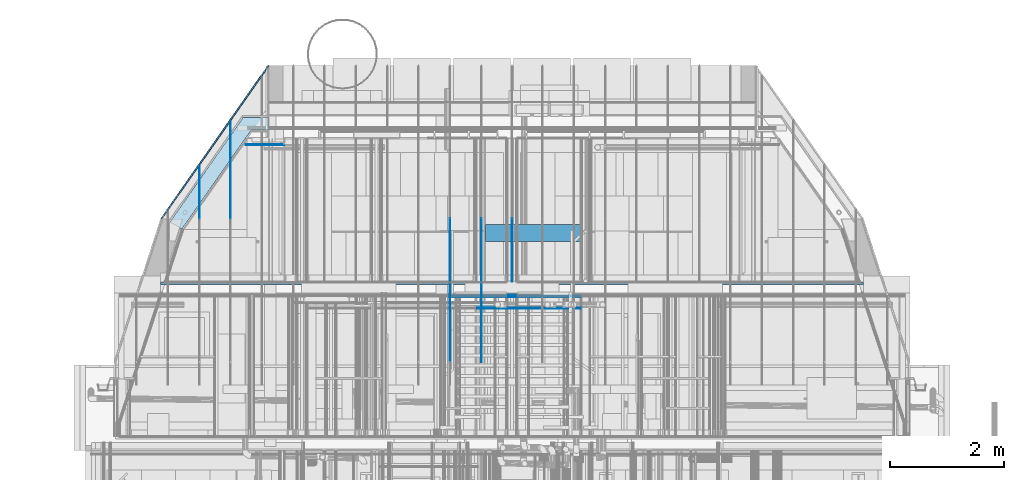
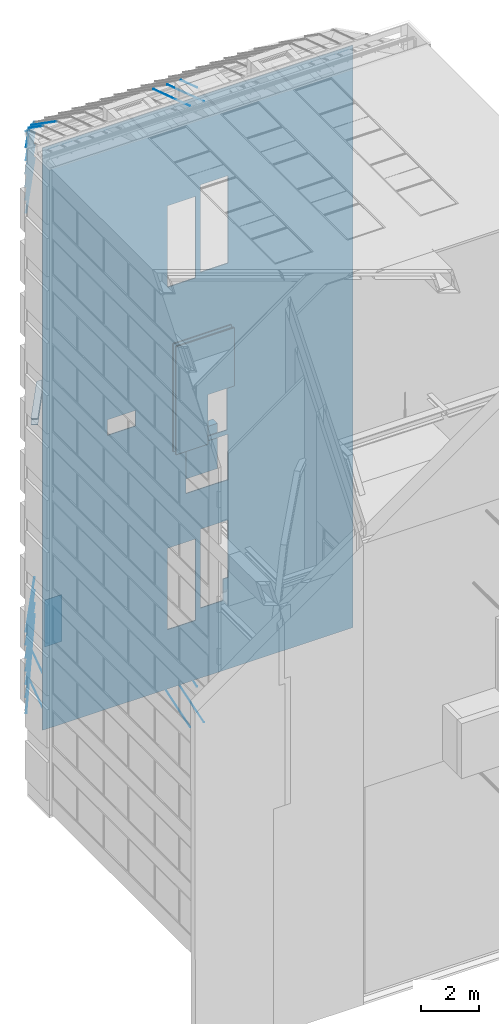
# One storey, part 270 of 583: 34 slabs.
"""IFC2X3 building model written with IfcOpenShell, lengths in metres."""

from ifc_helpers import new_model, entity, si_unit, converted_unit, derived_unit, money_unit, direction, frame, origin_with_axes, place, context, subcontext, project, spatial, faceted_brep, material, type_object, element, save


model = new_model("IFC2X3")

# Units and contexts
model_context = context("Model", 3, precision=1e-05, world=origin_with_axes(), true_north=direction((0.0, 1.0)))
body_context = subcontext(model_context, "Body", "Model", "MODEL_VIEW", scale=1.0)
ifc_project = project(units=[si_unit("LENGTHUNIT", "METRE"), si_unit("AREAUNIT", "SQUARE_METRE"), si_unit("VOLUMEUNIT", "CUBIC_METRE"), si_unit("ABSORBEDDOSEUNIT", "GRAY"), si_unit("AMOUNTOFSUBSTANCEUNIT", "MOLE"), si_unit("DOSEEQUIVALENTUNIT", "SIEVERT"), si_unit("ELECTRICCAPACITANCEUNIT", "FARAD"), si_unit("ELECTRICCHARGEUNIT", "COULOMB"), si_unit("ELECTRICCONDUCTANCEUNIT", "SIEMENS"), si_unit("ELECTRICCURRENTUNIT", "AMPERE"), si_unit("ELECTRICRESISTANCEUNIT", "OHM"), si_unit("ELECTRICVOLTAGEUNIT", "VOLT"), si_unit("ENERGYUNIT", "JOULE"), si_unit("FORCEUNIT", "NEWTON"), si_unit("FREQUENCYUNIT", "HERTZ"), si_unit("ILLUMINANCEUNIT", "LUX"), si_unit("INDUCTANCEUNIT", "HENRY"), si_unit("LUMINOUSFLUXUNIT", "LUMEN"), si_unit("LUMINOUSINTENSITYUNIT", "CANDELA"), si_unit("MAGNETICFLUXDENSITYUNIT", "TESLA"), si_unit("MAGNETICFLUXUNIT", "WEBER"), si_unit("MASSUNIT", "GRAM"), converted_unit("PLANEANGLEUNIT", "degree", entity("IfcReal", 0.0174532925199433), si_unit("PLANEANGLEUNIT", "RADIAN"), dimensions=[0, 0, 0, 0, 0, 0, 0]), si_unit("POWERUNIT", "WATT"), si_unit("PRESSUREUNIT", "PASCAL"), si_unit("RADIOACTIVITYUNIT", "BECQUEREL"), si_unit("SOLIDANGLEUNIT", "STERADIAN"), si_unit("THERMODYNAMICTEMPERATUREUNIT", "KELVIN"), si_unit("TIMEUNIT", "SECOND"), derived_unit("ACCELERATIONUNIT", [(si_unit("LENGTHUNIT", "METRE"), 1), (si_unit("TIMEUNIT", "SECOND"), -2)]), derived_unit("ANGULARVELOCITYUNIT", [(converted_unit("PLANEANGLEUNIT", "degree", entity("IfcReal", 0.0174532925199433), si_unit("PLANEANGLEUNIT", "RADIAN"), dimensions=[0, 0, 0, 0, 0, 0, 0]), 1), (si_unit("TIMEUNIT", "SECOND"), -1)]), derived_unit("CURVATUREUNIT", [(converted_unit("PLANEANGLEUNIT", "degree", entity("IfcReal", 0.0174532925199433), si_unit("PLANEANGLEUNIT", "RADIAN"), dimensions=[0, 0, 0, 0, 0, 0, 0]), 1), (si_unit("LENGTHUNIT", "METRE"), -1)]), derived_unit("DYNAMICVISCOSITYUNIT", [(si_unit("PRESSUREUNIT", "PASCAL"), 1), (si_unit("TIMEUNIT", "SECOND"), 1)]), derived_unit("HEATFLUXDENSITYUNIT", [(si_unit("POWERUNIT", "WATT"), 1), (si_unit("LENGTHUNIT", "METRE"), -2)]), derived_unit("HEATINGVALUEUNIT", [(si_unit("ENERGYUNIT", "JOULE"), 1), (si_unit("MASSUNIT", "GRAM"), -1)]), derived_unit("INTEGERCOUNTRATEUNIT", [(si_unit("TIMEUNIT", "SECOND"), -1)]), derived_unit("IONCONCENTRATIONUNIT", [(si_unit("MASSUNIT", "GRAM"), 1), (si_unit("VOLUMEUNIT", "CUBIC_METRE"), -1)]), derived_unit("ISOTHERMALMOISTURECAPACITYUNIT", [(si_unit("VOLUMEUNIT", "CUBIC_METRE"), 1), (si_unit("MASSUNIT", "GRAM"), -1)]), derived_unit("KINEMATICVISCOSITYUNIT", [(si_unit("AREAUNIT", "SQUARE_METRE"), 1), (si_unit("TIMEUNIT", "SECOND"), -1)]), derived_unit("LINEARFORCEUNIT", [(si_unit("FORCEUNIT", "NEWTON"), 1), (si_unit("LENGTHUNIT", "METRE"), -1)]), derived_unit("LINEARMOMENTUNIT", [(si_unit("FORCEUNIT", "NEWTON"), 1), (si_unit("LENGTHUNIT", "METRE"), -1)]), derived_unit("LINEARSTIFFNESSUNIT", [(si_unit("FORCEUNIT", "NEWTON"), 1), (si_unit("LENGTHUNIT", "METRE"), -1)]), derived_unit("LINEARVELOCITYUNIT", [(si_unit("LENGTHUNIT", "METRE"), 1), (si_unit("TIMEUNIT", "SECOND"), -1)]), derived_unit("LUMINOUSINTENSITYDISTRIBUTIONUNIT", [(si_unit("LUMINOUSINTENSITYUNIT", "CANDELA"), 1), (si_unit("LUMINOUSFLUXUNIT", "LUMEN"), -1)]), derived_unit("MASSDENSITYUNIT", [(si_unit("MASSUNIT", "GRAM"), 1), (si_unit("VOLUMEUNIT", "CUBIC_METRE"), -1)]), derived_unit("MASSFLOWRATEUNIT", [(si_unit("MASSUNIT", "GRAM"), 1), (si_unit("TIMEUNIT", "SECOND"), -1)]), derived_unit("MASSPERLENGTHUNIT", [(si_unit("MASSUNIT", "GRAM"), 1), (si_unit("LENGTHUNIT", "METRE"), -1)]), derived_unit("MODULUSOFELASTICITYUNIT", [(si_unit("FORCEUNIT", "NEWTON"), 1), (si_unit("AREAUNIT", "SQUARE_METRE"), -1)]), derived_unit("MODULUSOFLINEARSUBGRADEREACTIONUNIT", [(si_unit("FORCEUNIT", "NEWTON"), 1), (si_unit("LENGTHUNIT", "METRE"), -2)]), derived_unit("MODULUSOFROTATIONALSUBGRADEREACTIONUNIT", [(si_unit("FORCEUNIT", "NEWTON"), 1), (si_unit("LENGTHUNIT", "METRE"), 1)]), derived_unit("MODULUSOFSUBGRADEREACTIONUNIT", [(si_unit("FORCEUNIT", "NEWTON"), 1), (si_unit("VOLUMEUNIT", "CUBIC_METRE"), -1)]), derived_unit("MOISTUREDIFFUSIVITYUNIT", [(si_unit("VOLUMEUNIT", "CUBIC_METRE"), 1), (si_unit("TIMEUNIT", "SECOND"), -1)]), derived_unit("MOLECULARWEIGHTUNIT", [(si_unit("MASSUNIT", "GRAM"), 1), (si_unit("AMOUNTOFSUBSTANCEUNIT", "MOLE"), -1)]), derived_unit("PLANARFORCEUNIT", [(si_unit("FORCEUNIT", "NEWTON"), 1), (si_unit("LENGTHUNIT", "METRE"), -2)]), derived_unit("ROTATIONALFREQUENCYUNIT", [(si_unit("TIMEUNIT", "SECOND"), -1)]), derived_unit("ROTATIONALMASSUNIT", [(si_unit("MASSUNIT", "GRAM"), 1), (si_unit("LENGTHUNIT", "METRE"), 2)]), derived_unit("ROTATIONALSTIFFNESSUNIT", [(si_unit("FORCEUNIT", "NEWTON"), 1), (si_unit("LENGTHUNIT", "METRE"), 1), (converted_unit("PLANEANGLEUNIT", "degree", entity("IfcReal", 0.0174532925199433), si_unit("PLANEANGLEUNIT", "RADIAN"), dimensions=[0, 0, 0, 0, 0, 0, 0]), -1)]), derived_unit("SECTIONAREAINTEGRALUNIT", [(si_unit("LENGTHUNIT", "METRE"), 5)]), derived_unit("SECTIONMODULUSUNIT", [(si_unit("LENGTHUNIT", "METRE"), 3)]), derived_unit("SHEARMODULUSUNIT", [(si_unit("FORCEUNIT", "NEWTON"), 1), (si_unit("AREAUNIT", "SQUARE_METRE"), -1)]), derived_unit("SOUNDPOWERUNIT", [(si_unit("ENERGYUNIT", "JOULE"), 1), (si_unit("TIMEUNIT", "SECOND"), -1)]), derived_unit("SPECIFICHEATCAPACITYUNIT", [(si_unit("FORCEUNIT", "NEWTON"), 1), (si_unit("MASSUNIT", "GRAM"), -1), (si_unit("THERMODYNAMICTEMPERATUREUNIT", "KELVIN"), -1)]), derived_unit("TEMPERATUREGRADIENTUNIT", [(si_unit("THERMODYNAMICTEMPERATUREUNIT", "KELVIN"), 1), (si_unit("LENGTHUNIT", "METRE"), -1)]), derived_unit("THERMALADMITTANCEUNIT", [(si_unit("POWERUNIT", "WATT"), 1), (si_unit("AREAUNIT", "SQUARE_METRE"), -1), (si_unit("THERMODYNAMICTEMPERATUREUNIT", "KELVIN"), -1)]), derived_unit("THERMALCONDUCTANCEUNIT", [(si_unit("POWERUNIT", "WATT"), 1), (si_unit("LENGTHUNIT", "METRE"), -1), (si_unit("THERMODYNAMICTEMPERATUREUNIT", "KELVIN"), -1)]), derived_unit("THERMALEXPANSIONCOEFFICIENTUNIT", [(si_unit("THERMODYNAMICTEMPERATUREUNIT", "KELVIN"), -1)]), derived_unit("THERMALRESISTANCEUNIT", [(si_unit("AREAUNIT", "SQUARE_METRE"), 1), (si_unit("POWERUNIT", "WATT"), -1)]), derived_unit("THERMALTRANSMITTANCEUNIT", [(si_unit("POWERUNIT", "WATT"), 1), (si_unit("AREAUNIT", "SQUARE_METRE"), -1), (si_unit("THERMODYNAMICTEMPERATUREUNIT", "KELVIN"), -1)]), derived_unit("TORQUEUNIT", [(si_unit("FORCEUNIT", "NEWTON"), 1), (si_unit("LENGTHUNIT", "METRE"), 1)]), derived_unit("VAPORPERMEABILITYUNIT", [(si_unit("MASSUNIT", "GRAM"), 1), (si_unit("TIMEUNIT", "SECOND"), -1)]), derived_unit("VOLUMETRICFLOWRATEUNIT", [(si_unit("VOLUMEUNIT", "CUBIC_METRE"), 1), (si_unit("TIMEUNIT", "SECOND"), -1)]), derived_unit("WARPINGCONSTANTUNIT", [(si_unit("LENGTHUNIT", "METRE"), 6)]), derived_unit("WARPINGMOMENTUNIT", [(si_unit("FORCEUNIT", "NEWTON"), 1), (si_unit("LENGTHUNIT", "METRE"), 2)]), money_unit("GBP")], contexts=[model_context])

# Site, building, storey
site_placement = place(None, origin_with_axes())
site = spatial("IfcSite", under=ifc_project, at=site_placement, Name="Site", CompositionType="ELEMENT")
building_placement = place(site_placement, origin_with_axes())
building = spatial("IfcBuilding", under=site, at=building_placement, Name="Building01", CompositionType="ELEMENT")
storey_placement = place(building_placement, frame((0.0, 0.0, 20.78), z_axis=(0.0, 0.0, 1.0), x_axis=(1.0, 0.0, 0.0)))
storey = spatial("IfcBuildingStorey", under=building, at=storey_placement, Name="RL", CompositionType="ELEMENT", Elevation=20.78)

# Slabs
ifc_material_1 = material(Name="A_BSUK_CeilingSoffitFinishes_Suspended")
slab_type_1 = type_object("IfcSlabType", Name="A-FloorsSlabs A_BSUK_Slabs", PredefinedType="FLOOR")
placement = place(storey_placement, frame((0.0, 0.0, -20.78), z_axis=(0.0, 0.0, 1.0), x_axis=(1.0, 0.0, 0.0)))
element("IfcSlab", 1, at=placement, inside=storey, type_object=slab_type_1, material=ifc_material_1, Name="A-FloorsSlabs A_BSUK_Slabs", ObjectType="CompoundSlabLeaf", context=body_context, shape_type="Brep", body=[
    faceted_brep([(6.35, 17.438, 11.33), (6.35, 17.453, 11.33), (7.599939, 17.453, 11.33), (7.599939, 17.438, 11.33), (6.35, 17.438, 15.83844), (6.35, 17.453, 15.83844), (8.65, 17.438, 15.83844), (8.65, 17.453, 15.83844), (8.65, 17.438, 13.4), (8.65, 17.453, 13.4), (7.599939, 17.438, 13.4), (7.599939, 17.453, 13.4)], [[[0, 1, 2, 3]], [[4, 5, 1, 0]], [[6, 7, 5, 4]], [[8, 9, 7, 6]], [[10, 11, 9, 8]], [[3, 2, 11, 10]], [[1, 5, 7, 9, 11, 2]], [[3, 10, 8, 6, 4, 0]]]),
])
element("IfcSlab", 2, at=placement, inside=storey, type_object=slab_type_1, material=ifc_material_1, Name="A-FloorsSlabs A_BSUK_Slabs", ObjectType="CompoundSlabLeaf", context=body_context, shape_type="Brep", body=[
    faceted_brep([(6.35, 17.408, 11.33), (6.35, 17.423, 11.33), (7.599939, 17.423, 11.33), (7.599939, 17.408, 11.33), (6.35, 17.408, 15.83844), (6.35, 17.423, 15.83844), (8.65, 17.408, 15.83844), (8.65, 17.423, 15.83844), (8.65, 17.408, 13.4), (8.65, 17.423, 13.4), (7.599939, 17.408, 13.4), (7.599939, 17.423, 13.4)], [[[0, 1, 2, 3]], [[4, 5, 1, 0]], [[6, 7, 5, 4]], [[8, 9, 7, 6]], [[10, 11, 9, 8]], [[3, 2, 11, 10]], [[1, 5, 7, 9, 11, 2]], [[3, 10, 8, 6, 4, 0]]]),
])
element("IfcSlab", 3, at=placement, inside=storey, type_object=slab_type_1, material=ifc_material_1, Name="A-FloorsSlabs A_BSUK_Slabs", ObjectType="CompoundSlabLeaf", context=body_context, shape_type="Brep", body=[
    faceted_brep([(6.35, 17.423, 11.33), (6.35, 17.438, 11.33), (7.599939, 17.438, 11.33), (7.599939, 17.423, 11.33), (6.35, 17.423, 15.83844), (6.35, 17.438, 15.83844), (8.65, 17.423, 15.83844), (8.65, 17.438, 15.83844), (8.65, 17.423, 13.4), (8.65, 17.438, 13.4), (7.599939, 17.423, 13.4), (7.599939, 17.438, 13.4)], [[[0, 1, 2, 3]], [[4, 5, 1, 0]], [[6, 7, 5, 4]], [[8, 9, 7, 6]], [[10, 11, 9, 8]], [[3, 2, 11, 10]], [[1, 5, 7, 9, 11, 2]], [[3, 10, 8, 6, 4, 0]]]),
])
element("IfcSlab", 4, at=placement, inside=storey, type_object=slab_type_1, material=ifc_material_1, Name="A-FloorsSlabs A_BSUK_Slabs", ObjectType="CompoundSlabLeaf", context=body_context, shape_type="Brep", body=[
    faceted_brep([(6.35, 17.208, 11.33), (6.35, 17.223, 11.33), (7.599939, 17.223, 11.33), (7.599939, 17.208, 11.33), (6.35, 17.208, 15.83844), (6.35, 17.223, 15.83844), (8.65, 17.208, 15.83844), (8.65, 17.223, 15.83844), (8.65, 17.208, 13.4), (8.65, 17.223, 13.4), (7.599939, 17.208, 13.4), (7.599939, 17.223, 13.4)], [[[0, 1, 2, 3]], [[4, 5, 1, 0]], [[6, 7, 5, 4]], [[8, 9, 7, 6]], [[10, 11, 9, 8]], [[3, 2, 11, 10]], [[1, 5, 7, 9, 11, 2]], [[3, 10, 8, 6, 4, 0]]]),
])
ifc_material_2 = material(Name="A_BSUK_Roofs")
element("IfcSlab", 5, at=placement, inside=storey, type_object=slab_type_1, material=ifc_material_2, Name="A-FloorsSlabs A_BSUK_Slabs", ObjectType="CompoundSlabLeaf", context=body_context, shape_type="Brep", body=[
    faceted_brep([(2.753715, 20.5522, 13.60455), (2.753715, 20.5522, 13.62955), (3.200061, 20.5522, 13.62955), (3.200061, 20.5522, 13.60455), (1.471535, 18.721057, 13.60455), (1.471535, 18.721057, 13.62955), (1.683672, 18.602594, 13.60455), (1.683672, 18.602594, 13.62955), (2.892824, 20.33, 13.60455), (2.892824, 20.33, 13.62955), (3.200061, 20.33, 13.60455), (3.200061, 20.33, 13.62955)], [[[0, 1, 2, 3]], [[4, 5, 1, 0]], [[6, 7, 5, 4]], [[8, 9, 7, 6]], [[10, 11, 9, 8]], [[3, 2, 11, 10]], [[1, 5, 7, 9, 11, 2]], [[3, 10, 8, 6, 4, 0]]]),
])
element("IfcSlab", 6, at=placement, inside=storey, type_object=slab_type_1, material=ifc_material_2, Name="A-FloorsSlabs A_BSUK_Slabs", ObjectType="CompoundSlabLeaf", context=body_context, shape_type="Brep", body=[
    faceted_brep([(3.199939, 20.5522, 13.39545), (3.199939, 20.5522, 13.37045), (2.753715, 20.5522, 13.37045), (2.753715, 20.5522, 13.39545), (3.199939, 20.33, 13.39545), (3.199939, 20.33, 13.37045), (2.892824, 20.33, 13.39545), (2.892824, 20.33, 13.37045), (1.683672, 18.602594, 13.39545), (1.683672, 18.602594, 13.37045), (1.471535, 18.721057, 13.39545), (1.471535, 18.721057, 13.37045)], [[[0, 1, 2, 3]], [[4, 5, 1, 0]], [[6, 7, 5, 4]], [[8, 9, 7, 6]], [[10, 11, 9, 8]], [[3, 2, 11, 10]], [[1, 5, 7, 9, 11, 2]], [[3, 10, 8, 6, 4, 0]]]),
])
ifc_material_3 = material(Name="A_BSUK_Slabs")
element("IfcSlab", 7, at=placement, inside=storey, type_object=slab_type_1, material=ifc_material_3, Name="A-FloorsSlabs A_BSUK_Slabs", ObjectType="CompoundSlabLeaf", context=body_context, shape_type="Brep", body=[
    faceted_brep([(8.654353, 18.38, 9.23), (8.654353, 18.68, 9.23), (8.654353, 18.68, 11.13), (8.654353, 18.38, 11.13), (6.982769, 18.38, 9.23), (6.982769, 18.68, 9.23), (6.982769, 18.38, 11.13), (6.982769, 18.68, 11.13)], [[[0, 1, 2, 3]], [[4, 5, 1, 0]], [[6, 7, 5, 4]], [[3, 2, 7, 6]], [[1, 5, 7, 2]], [[3, 6, 4, 0]]]),
])
ifc_material_4 = material(Name="A_BSUK_InternalFinishes_FloorScreed")
element("IfcSlab", 8, at=placement, inside=storey, type_object=slab_type_1, material=ifc_material_4, Name="A-FloorsSlabs A_BSUK_Slabs", ObjectType="CompoundSlabLeaf", context=body_context, shape_type="Brep", body=[
    faceted_brep([(1.31, 17.665, 1.31), (1.31, 17.665, 25.67), (13.59, 17.665, 25.67), (13.59, 17.665, 1.31), (8.65, 17.665, 9.23), (8.65, 17.665, 11.13), (6.982769, 17.665, 11.13), (6.982769, 17.665, 9.23), (8.647427, 17.665, 21.939976), (7.549915, 17.665, 21.939976), (7.549915, 17.665, 18.289976), (8.647427, 17.665, 18.289976), (6.252627, 17.665, 18.11844), (7.349915, 17.665, 18.11844), (7.349915, 17.665, 21.51844), (6.252627, 17.665, 21.51844), (8.599939, 17.665, 11.323), (8.599939, 17.665, 13.4), (7.599939, 17.665, 13.4), (7.599939, 17.665, 11.323), (4.98, 17.665, 12.75), (4.98, 17.665, 13.4), (3.88, 17.665, 13.4), (3.88, 17.665, 12.75), (6.252627, 17.665, 3.795111), (7.349939, 17.665, 3.795111), (7.349939, 17.665, 7.195077), (6.252627, 17.665, 7.195077), (8.647427, 17.665, 7.54), (7.55, 17.665, 7.54), (7.55, 17.665, 4.24), (8.449939, 17.665, 4.24), (8.449939, 17.665, 5.14), (8.647427, 17.665, 5.14), (13.59, 17.63, 1.31), (13.59, 17.63, 25.67), (1.31, 17.63, 25.67), (1.31, 17.63, 1.31), (4.98, 17.63, 12.75), (3.88, 17.63, 12.75), (3.88, 17.63, 13.4), (4.98, 17.63, 13.4), (6.252627, 17.63, 18.11844), (6.252627, 17.63, 21.51844), (7.349915, 17.63, 21.51844), (7.349915, 17.63, 18.11844), (8.65, 17.63, 9.23), (6.982769, 17.63, 9.23), (6.982769, 17.63, 11.13), (8.65, 17.63, 11.13), (6.252627, 17.63, 3.795111), (6.252627, 17.63, 7.195077), (7.349939, 17.63, 7.195077), (7.349939, 17.63, 3.795111), (8.647427, 17.63, 21.939976), (8.647427, 17.63, 18.289976), (7.549915, 17.63, 18.289976), (7.549915, 17.63, 21.939976), (8.599939, 17.63, 11.323), (7.599939, 17.63, 11.323), (7.599939, 17.63, 13.4), (8.599939, 17.63, 13.4), (8.647427, 17.63, 7.54), (8.647427, 17.63, 5.14), (8.449939, 17.63, 5.14), (8.449939, 17.63, 4.24), (7.55, 17.63, 4.24), (7.55, 17.63, 7.54)], [[[0, 1, 2, 3], [4, 5, 6, 7], [8, 9, 10, 11], [12, 13, 14, 15], [16, 17, 18, 19], [20, 21, 22, 23], [24, 25, 26, 27], [28, 29, 30, 31, 32, 33]], [[34, 35, 36, 37], [38, 39, 40, 41], [42, 43, 44, 45], [46, 47, 48, 49], [50, 51, 52, 53], [54, 55, 56, 57], [58, 59, 60, 61], [62, 63, 64, 65, 66, 67]], [[64, 32, 31, 65]], [[37, 0, 3, 34]], [[36, 1, 0, 37]], [[35, 2, 1, 36]], [[34, 3, 2, 35]], [[46, 49, 5, 4]], [[49, 48, 6, 5]], [[48, 47, 7, 6]], [[47, 46, 4, 7]], [[54, 57, 9, 8]], [[57, 56, 10, 9]], [[56, 55, 11, 10]], [[55, 54, 8, 11]], [[42, 45, 13, 12]], [[43, 42, 12, 15]], [[44, 43, 15, 14]], [[45, 44, 14, 13]], [[58, 61, 17, 16]], [[59, 58, 16, 19]], [[60, 59, 19, 18]], [[61, 60, 18, 17]], [[38, 41, 21, 20]], [[41, 40, 22, 21]], [[40, 39, 23, 22]], [[39, 38, 20, 23]], [[28, 62, 67, 29]], [[67, 66, 30, 29]], [[66, 65, 31, 30]], [[50, 53, 25, 24]], [[51, 50, 24, 27]], [[52, 51, 27, 26]], [[53, 52, 26, 25]], [[63, 62, 28, 33]], [[64, 63, 33, 32]]]),
])
element("IfcSlab", 9, at=placement, inside=storey, type_object=slab_type_1, material=ifc_material_1, Name="A-FloorsSlabs A_BSUK_Slabs", ObjectType="CompoundSlabLeaf", context=body_context, shape_type="Brep", body=[
    faceted_brep([(2.798128, 20.065, 4.760024), (2.798128, 20.08, 4.760024), (2.798128, 20.08, 2.798126), (2.798128, 20.065, 2.798126), (3.474708, 20.065, 4.760024), (3.474708, 20.08, 4.760024), (3.474708, 20.065, 2.798126), (3.474708, 20.08, 2.798126)], [[[0, 1, 2, 3]], [[4, 5, 1, 0]], [[6, 7, 5, 4]], [[3, 2, 7, 6]], [[1, 5, 7, 2]], [[3, 6, 4, 0]]]),
])
for number, where, z_axis, x_axis, name in (
    (10, (1.33426, 18.780461, 2.022524), (0.0, 1.0, 0.0), (0.0, 0.0, 1.0), "A-FloorsSlabs A_BSUK_Slabs"),
    (11, (1.33426, 18.780461, 2.570024), (0.0, 1.0, 0.0), (0.0, 0.0, 1.0), "A-FloorsSlabs A_BSUK_Slabs"),
):
    element("IfcSlab", number, at=place(storey_placement, frame(where, z_axis=z_axis, x_axis=x_axis)), inside=storey, type_object=slab_type_1, material=ifc_material_2, Name=name, ObjectType="A-FloorsSlabs A_BSUK_Slabs", context=body_context, shape_type="Brep", body=[
        faceted_brep([(0.0, 0.0, 0.0), (0.0, -0.016383, 0.011472), (0.0, 1.849297, 2.675938), (0.0, 1.86568, 2.664467), (0.01, 0.0, 0.0), (0.01, -0.016383, 0.011472), (0.01, 1.86568, 2.664467), (0.01, 1.849297, 2.675938)], [[[0, 1, 2, 3]], [[4, 5, 1, 0]], [[6, 7, 5, 4]], [[3, 2, 7, 6]], [[1, 5, 7, 2]], [[3, 6, 4, 0]]]),
    ])
slab_10_placement = place(storey_placement, frame((1.33426, 18.780461, 3.117524), z_axis=(0.0, 1.0, 0.0), x_axis=(0.0, 0.0, 1.0)))
element("IfcSlab", 12, at=slab_10_placement, inside=storey, type_object=slab_type_1, material=ifc_material_2, Name="A-FloorsSlabs A_BSUK_Slabs", ObjectType="A-FloorsSlabs A_BSUK_Slabs", context=body_context, shape_type="Brep", body=[
    faceted_brep([(0.0, 0.0, 0.0), (0.0, -0.016383, 0.011471), (0.0, 1.725072, 2.498526), (0.0, 1.741455, 2.487055), (0.01, 0.0, 0.0), (0.01, -0.016383, 0.011471), (0.01, 1.741455, 2.487055), (0.01, 1.725072, 2.498526)], [[[0, 1, 2, 3]], [[4, 5, 1, 0]], [[6, 7, 5, 4]], [[3, 2, 7, 6]], [[1, 5, 7, 2]], [[3, 6, 4, 0]]]),
])
slab_11_placement = place(storey_placement, frame((1.33426, 18.780461, 3.665024), z_axis=(0.0, 1.0, 0.0), x_axis=(0.0, 0.0, 1.0)))
element("IfcSlab", 13, at=slab_11_placement, inside=storey, type_object=slab_type_1, material=ifc_material_2, Name="A-FloorsSlabs A_BSUK_Slabs", ObjectType="A-FloorsSlabs A_BSUK_Slabs", context=body_context, shape_type="Brep", body=[
    faceted_brep([(0.0, 0.0, 0.0), (0.0, -0.016214, 0.011353), (0.0, 1.190082, 1.734122), (0.0, 1.206296, 1.722769), (0.01, 0.0, 0.0), (0.01, -0.016214, 0.011353), (0.01, 1.206296, 1.722769), (0.01, 1.190082, 1.734122)], [[[0, 1, 2, 3]], [[4, 5, 1, 0]], [[6, 7, 5, 4]], [[3, 2, 7, 6]], [[1, 5, 7, 2]], [[3, 6, 4, 0]]]),
])
slab_12_placement = place(storey_placement, frame((1.33426, 18.780461, 4.212524), z_axis=(0.0, 1.0, 0.0), x_axis=(0.0, 0.0, 1.0)))
element("IfcSlab", 14, at=slab_12_placement, inside=storey, type_object=slab_type_1, material=ifc_material_2, Name="A-FloorsSlabs A_BSUK_Slabs", ObjectType="A-FloorsSlabs A_BSUK_Slabs", context=body_context, shape_type="Brep", body=[
    faceted_brep([(0.0, 0.0, 0.0), (0.0, -0.016383, 0.011472), (0.0, 0.639522, 0.948201), (0.0, 0.655905, 0.936729), (0.01, 0.0, 0.0), (0.01, -0.016383, 0.011472), (0.01, 0.655905, 0.936729), (0.01, 0.639522, 0.948201)], [[[0, 1, 2, 3]], [[4, 5, 1, 0]], [[6, 7, 5, 4]], [[3, 2, 7, 6]], [[1, 5, 7, 2]], [[3, 6, 4, 0]]]),
])
for number, where, z_axis, x_axis, name in (
    (15, (1.33426, 18.780461, -16.034976), (0.0, 1.0, 0.0), (0.0, 0.0, 1.0), "A-FloorsSlabs A_BSUK_Slabs"),
    (16, (1.33426, 18.780461, -16.582476), (0.0, 1.0, 0.0), (0.0, 0.0, 1.0), "A-FloorsSlabs A_BSUK_Slabs"),
    (17, (1.33426, 18.780461, -17.129976), (0.0, 1.0, 0.0), (0.0, 0.0, 1.0), "A-FloorsSlabs A_BSUK_Slabs"),
):
    element("IfcSlab", number, at=place(storey_placement, frame(where, z_axis=z_axis, x_axis=x_axis)), inside=storey, type_object=slab_type_1, material=ifc_material_2, Name=name, ObjectType="A-FloorsSlabs A_BSUK_Slabs", context=body_context, shape_type="Brep", body=[
        faceted_brep([(0.0, 1.86568, 2.664467), (0.0, 1.849297, 2.675938), (0.0, -0.016383, 0.011472), (0.0, 0.0, 0.0), (-0.01, -0.016383, 0.011472), (-0.01, 0.0, 0.0), (-0.01, 1.849297, 2.675938), (-0.01, 1.86568, 2.664467)], [[[0, 1, 2, 3]], [[3, 2, 4, 5]], [[5, 4, 6, 7]], [[7, 6, 1, 0]], [[1, 6, 4, 2]], [[3, 5, 7, 0]]]),
    ])
slab_13_placement = place(storey_placement, frame((1.33426, 18.780461, -17.677476), z_axis=(0.0, 1.0, 0.0), x_axis=(0.0, 0.0, 1.0)))
element("IfcSlab", 18, at=slab_13_placement, inside=storey, type_object=slab_type_1, material=ifc_material_2, Name="A-FloorsSlabs A_BSUK_Slabs", ObjectType="A-FloorsSlabs A_BSUK_Slabs", context=body_context, shape_type="Brep", body=[
    faceted_brep([(0.0, 1.741455, 2.487055), (0.0, 1.725072, 2.498526), (0.0, -0.016383, 0.011471), (0.0, 0.0, 0.0), (-0.01, -0.016383, 0.011471), (-0.01, 0.0, 0.0), (-0.01, 1.725072, 2.498526), (-0.01, 1.741455, 2.487055)], [[[0, 1, 2, 3]], [[3, 2, 4, 5]], [[5, 4, 6, 7]], [[7, 6, 1, 0]], [[1, 6, 4, 2]], [[3, 5, 7, 0]]]),
])
slab_14_placement = place(storey_placement, frame((1.33426, 18.780461, -18.224976), z_axis=(0.0, 1.0, 0.0), x_axis=(0.0, 0.0, 1.0)))
element("IfcSlab", 19, at=slab_14_placement, inside=storey, type_object=slab_type_1, material=ifc_material_2, Name="A-FloorsSlabs A_BSUK_Slabs", ObjectType="A-FloorsSlabs A_BSUK_Slabs", context=body_context, shape_type="Brep", body=[
    faceted_brep([(0.0, 1.206296, 1.722769), (0.0, 1.190082, 1.734122), (0.0, -0.016214, 0.011353), (0.0, 0.0, 0.0), (-0.01, -0.016214, 0.011353), (-0.01, 0.0, 0.0), (-0.01, 1.190082, 1.734122), (-0.01, 1.206296, 1.722769)], [[[0, 1, 2, 3]], [[3, 2, 4, 5]], [[5, 4, 6, 7]], [[7, 6, 1, 0]], [[1, 6, 4, 2]], [[3, 5, 7, 0]]]),
])
slab_15_placement = place(storey_placement, frame((1.33426, 18.780461, -18.772476), z_axis=(0.0, 1.0, 0.0), x_axis=(0.0, 0.0, 1.0)))
element("IfcSlab", 20, at=slab_15_placement, inside=storey, type_object=slab_type_1, material=ifc_material_2, Name="A-FloorsSlabs A_BSUK_Slabs", ObjectType="A-FloorsSlabs A_BSUK_Slabs", context=body_context, shape_type="Brep", body=[
    faceted_brep([(0.0, 0.655905, 0.936729), (0.0, 0.639522, 0.948201), (0.0, -0.016383, 0.011472), (0.0, 0.0, 0.0), (-0.01, -0.016383, 0.011472), (-0.01, 0.0, 0.0), (-0.01, 0.639522, 0.948201), (-0.01, 0.655905, 0.936729)], [[[0, 1, 2, 3]], [[3, 2, 4, 5]], [[5, 4, 6, 7]], [[7, 6, 1, 0]], [[1, 6, 4, 2]], [[3, 5, 7, 0]]]),
])
slab_16_placement = place(storey_placement, frame((2.538975, 18.780461, 4.86574), z_axis=(0.0, 1.0, 0.0), x_axis=(1.0, 0.0, 0.0)))
element("IfcSlab", 21, at=slab_16_placement, inside=storey, type_object=slab_type_1, material=ifc_material_2, Name="A-FloorsSlabs A_BSUK_Slabs", ObjectType="A-FloorsSlabs A_BSUK_Slabs", context=body_context, shape_type="Brep", body=[
    faceted_brep([(0.0, 1.206296, 1.722769), (0.0, 1.190082, 1.734122), (0.0, -0.016214, 0.011353), (0.0, 0.0, 0.0), (-0.01, -0.016214, 0.011353), (-0.01, 0.0, 0.0), (-0.01, 1.190082, 1.734122), (-0.01, 1.206296, 1.722769)], [[[0, 1, 2, 3]], [[3, 2, 4, 5]], [[5, 4, 6, 7]], [[7, 6, 1, 0]], [[1, 6, 4, 2]], [[3, 5, 7, 0]]]),
])
slab_17_placement = place(storey_placement, frame((1.991475, 18.780461, 4.86574), z_axis=(0.0, 1.0, 0.0), x_axis=(1.0, 0.0, 0.0)))
element("IfcSlab", 22, at=slab_17_placement, inside=storey, type_object=slab_type_1, material=ifc_material_2, Name="A-FloorsSlabs A_BSUK_Slabs", ObjectType="A-FloorsSlabs A_BSUK_Slabs", context=body_context, shape_type="Brep", body=[
    faceted_brep([(0.0, 0.655905, 0.936729), (0.0, 0.639522, 0.948201), (0.0, -0.016383, 0.011472), (0.0, 0.0, 0.0), (-0.01, -0.016383, 0.011472), (-0.01, 0.0, 0.0), (-0.01, 0.639522, 0.948201), (-0.01, 0.655905, 0.936729)], [[[0, 1, 2, 3]], [[3, 2, 4, 5]], [[5, 4, 6, 7]], [[7, 6, 1, 0]], [[1, 6, 4, 2]], [[3, 5, 7, 0]]]),
])
for number, where, z_axis, x_axis, name in (
    (23, (6.361475, 16.274427, 5.68), (0.0, 1.0, 0.0), (1.0, 0.0, 0.0), "A-FloorsSlabs A_BSUK_Slabs"),
    (24, (6.908975, 16.274427, 5.68), (0.0, 1.0, 0.0), (1.0, 0.0, 0.0), "A-FloorsSlabs A_BSUK_Slabs"),
):
    element("IfcSlab", number, at=place(storey_placement, frame(where, z_axis=z_axis, x_axis=x_axis)), inside=storey, type_object=slab_type_1, material=ifc_material_2, Name=name, ObjectType="A-FloorsSlabs A_BSUK_Slabs", context=body_context, shape_type="Brep", body=[
        faceted_brep([(0.0, 0.0, 0.0), (0.0, -0.019021, 0.00618), (0.0, 0.795239, 2.512214), (0.0, 0.81426, 2.506034), (0.01, 0.0, 0.0), (0.01, -0.019021, 0.00618), (0.01, 0.81426, 2.506034), (0.01, 0.795239, 2.512214)], [[[0, 1, 2, 3]], [[4, 5, 1, 0]], [[6, 7, 5, 4]], [[3, 2, 7, 6]], [[1, 5, 7, 2]], [[3, 6, 4, 0]]]),
    ])
slab_18_placement = place(storey_placement, frame((7.444964, 16.274427, 5.68), z_axis=(0.0, 1.0, 0.0), x_axis=(1.0, 0.0, 0.0)))
element("IfcSlab", 25, at=slab_18_placement, inside=storey, type_object=slab_type_1, material=ifc_material_2, Name="A-FloorsSlabs A_BSUK_Slabs", ObjectType="A-FloorsSlabs A_BSUK_Slabs", context=body_context, shape_type="Brep", body=[
    faceted_brep([(0.0, 0.456727, 1.405662), (0.0, 0.437706, 1.411842), (0.0, 0.795239, 2.512214), (0.0, 0.81426, 2.506034), (0.01, 0.456727, 1.405662), (0.01, 0.437706, 1.411842), (0.01, 0.81426, 2.506034), (0.01, 0.795239, 2.512214)], [[[0, 1, 2, 3]], [[4, 5, 1, 0]], [[6, 7, 5, 4]], [[3, 2, 7, 6]], [[1, 5, 7, 2]], [[3, 6, 4, 0]]]),
])
slab_19_placement = place(storey_placement, frame((2.538975, 18.780461, -19.44574), z_axis=(0.0, 1.0, 0.0), x_axis=(-1.0, 0.0, 0.0)))
element("IfcSlab", 26, at=slab_19_placement, inside=storey, type_object=slab_type_1, material=ifc_material_2, Name="A-FloorsSlabs A_BSUK_Slabs", ObjectType="A-FloorsSlabs A_BSUK_Slabs", context=body_context, shape_type="Brep", body=[
    faceted_brep([(0.0, 0.0, 0.0), (0.0, -0.016214, 0.011353), (0.0, 1.190082, 1.734122), (0.0, 1.206296, 1.722769), (0.01, 0.0, 0.0), (0.01, -0.016214, 0.011353), (0.01, 1.206296, 1.722769), (0.01, 1.190082, 1.734122)], [[[0, 1, 2, 3]], [[4, 5, 1, 0]], [[6, 7, 5, 4]], [[3, 2, 7, 6]], [[1, 5, 7, 2]], [[3, 6, 4, 0]]]),
])
slab_20_placement = place(storey_placement, frame((1.991475, 18.780461, -19.44574), z_axis=(0.0, 1.0, 0.0), x_axis=(-1.0, 0.0, 0.0)))
element("IfcSlab", 27, at=slab_20_placement, inside=storey, type_object=slab_type_1, material=ifc_material_2, Name="A-FloorsSlabs A_BSUK_Slabs", ObjectType="A-FloorsSlabs A_BSUK_Slabs", context=body_context, shape_type="Brep", body=[
    faceted_brep([(0.0, 0.0, 0.0), (0.0, -0.016383, 0.011472), (0.0, 0.639522, 0.948201), (0.0, 0.655905, 0.936729), (0.01, 0.0, 0.0), (0.01, -0.016383, 0.011472), (0.01, 0.655905, 0.936729), (0.01, 0.639522, 0.948201)], [[[0, 1, 2, 3]], [[4, 5, 1, 0]], [[6, 7, 5, 4]], [[3, 2, 7, 6]], [[1, 5, 7, 2]], [[3, 6, 4, 0]]]),
])
slab_21_placement = place(storey_placement, frame((7.444964, 16.274427, -20.26), z_axis=(0.0, 1.0, 0.0), x_axis=(-1.0, 0.0, 0.0)))
element("IfcSlab", 28, at=slab_21_placement, inside=storey, type_object=slab_type_1, material=ifc_material_2, Name="A-FloorsSlabs A_BSUK_Slabs", ObjectType="A-FloorsSlabs A_BSUK_Slabs", context=body_context, shape_type="Brep", body=[
    faceted_brep([(0.0, 0.81426, 2.506034), (0.0, 0.795239, 2.512214), (0.0, 0.437706, 1.411842), (0.0, 0.456727, 1.405662), (-0.01, 0.437706, 1.411842), (-0.01, 0.456727, 1.405662), (-0.01, 0.795239, 2.512214), (-0.01, 0.81426, 2.506034)], [[[0, 1, 2, 3]], [[3, 2, 4, 5]], [[5, 4, 6, 7]], [[7, 6, 1, 0]], [[1, 6, 4, 2]], [[3, 5, 7, 0]]]),
])
for number, where, z_axis, x_axis, name in (
    (29, (6.908975, 16.274427, -20.26), (0.0, 1.0, 0.0), (-1.0, 0.0, 0.0), "A-FloorsSlabs A_BSUK_Slabs"),
    (30, (6.361475, 16.274427, -20.26), (0.0, 1.0, 0.0), (-1.0, 0.0, 0.0), "A-FloorsSlabs A_BSUK_Slabs"),
):
    element("IfcSlab", number, at=place(storey_placement, frame(where, z_axis=z_axis, x_axis=x_axis)), inside=storey, type_object=slab_type_1, material=ifc_material_2, Name=name, ObjectType="A-FloorsSlabs A_BSUK_Slabs", context=body_context, shape_type="Brep", body=[
        faceted_brep([(0.0, 0.81426, 2.506034), (0.0, 0.795239, 2.512214), (0.0, -0.019021, 0.00618), (0.0, 0.0, 0.0), (-0.01, -0.019021, 0.00618), (-0.01, 0.0, 0.0), (-0.01, 0.795239, 2.512214), (-0.01, 0.81426, 2.506034)], [[[0, 1, 2, 3]], [[3, 2, 4, 5]], [[5, 4, 6, 7]], [[7, 6, 1, 0]], [[1, 6, 4, 2]], [[3, 5, 7, 0]]]),
    ])
slab_22_placement = place(storey_placement, frame((1.578142, 19.134184, -19.194838), z_axis=(0.06942953, 0.98217368, 0.17468375), x_axis=(-0.63640426, -0.09123859, 0.76594069)))
element("IfcSlab", 31, at=slab_22_placement, inside=storey, type_object=slab_type_1, material=ifc_material_2, Name="A-FloorsSlabs A_BSUK_Slabs", ObjectType="A-FloorsSlabs A_BSUK_Slabs", context=body_context, shape_type="Brep", body=[
    faceted_brep([(0.0, 1.86568, 2.664467), (0.0, 1.849297, 2.675938), (0.0, -0.302893, -0.397707), (0.0, -0.28651, -0.409178), (-0.01, -0.302893, -0.397707), (-0.01, -0.28651, -0.409178), (-0.01, 1.849297, 2.675938), (-0.01, 1.86568, 2.664467)], [[[0, 1, 2, 3]], [[3, 2, 4, 5]], [[5, 4, 6, 7]], [[7, 6, 1, 0]], [[1, 6, 4, 2]], [[3, 5, 7, 0]]]),
])
slab_23_placement = place(storey_placement, frame((1.578142, 19.134184, 4.615891), z_axis=(0.06942953, 0.98217368, -0.17468375), x_axis=(0.63640426, 0.09123859, 0.76594069)))
element("IfcSlab", 32, at=slab_23_placement, inside=storey, type_object=slab_type_1, material=ifc_material_2, Name="A-FloorsSlabs A_BSUK_Slabs", ObjectType="A-FloorsSlabs A_BSUK_Slabs", context=body_context, shape_type="Brep", body=[
    faceted_brep([(0.0, -0.28651, -0.409178), (0.0, -0.302893, -0.397707), (0.0, 1.849297, 2.675938), (0.0, 1.86568, 2.664467), (0.01, -0.28651, -0.409178), (0.01, -0.302893, -0.397707), (0.01, 1.86568, 2.664467), (0.01, 1.849297, 2.675938)], [[[0, 1, 2, 3]], [[4, 5, 1, 0]], [[6, 7, 5, 4]], [[3, 2, 7, 6]], [[1, 5, 7, 2]], [[3, 6, 4, 0]]]),
])
element("IfcSlab", 33, at=placement, inside=storey, type_object=slab_type_1, material=ifc_material_2, Name="A-FloorsSlabs A_BSUK_Slabs", ObjectType="CompoundSlabLeaf", context=body_context, shape_type="Brep", body=[
    faceted_brep([(1.33426, 18.780461, 22.255024), (1.317877, 18.791933, 22.255024), (3.183556, 21.456399, 22.255024), (3.199939, 21.444928, 22.255024), (1.33426, 18.780461, 22.265024), (1.317877, 18.791933, 22.265024), (3.199939, 21.444928, 22.265024), (3.183556, 21.456399, 22.265024)], [[[0, 1, 2, 3]], [[4, 5, 1, 0]], [[6, 7, 5, 4]], [[3, 2, 7, 6]], [[1, 5, 7, 2]], [[3, 6, 4, 0]]]),
])
ifc_material_5 = material(Name="A_BSUK_ExpandedPolystyreneBoards")
slab_type_2 = type_object("IfcSlabType", Name="A-FloorsSlabs A_BSUK_ExpandedPolystyreneBoards", PredefinedType="FLOOR")
element("IfcSlab", 34, at=placement, inside=storey, type_object=slab_type_2, material=ifc_material_5, Name="A-FloorsSlabs A_BSUK_ExpandedPolystyreneBoards", ObjectType="CompoundSlabLeaf", context=body_context, shape_type="Brep", body=[
    faceted_brep([(6.35, 17.223, 11.33), (6.35, 17.273, 11.33), (7.599939, 17.273, 11.33), (7.599939, 17.223, 11.33), (6.35, 17.223, 15.83844), (6.35, 17.273, 15.83844), (8.65, 17.223, 15.83844), (8.65, 17.273, 15.83844), (8.65, 17.223, 13.4), (8.65, 17.273, 13.4), (7.599939, 17.223, 13.4), (7.599939, 17.273, 13.4)], [[[0, 1, 2, 3]], [[4, 5, 1, 0]], [[6, 7, 5, 4]], [[8, 9, 7, 6]], [[10, 11, 9, 8]], [[3, 2, 11, 10]], [[1, 5, 7, 9, 11, 2]], [[3, 10, 8, 6, 4, 0]]]),
])

save(model, "model.ifc")
